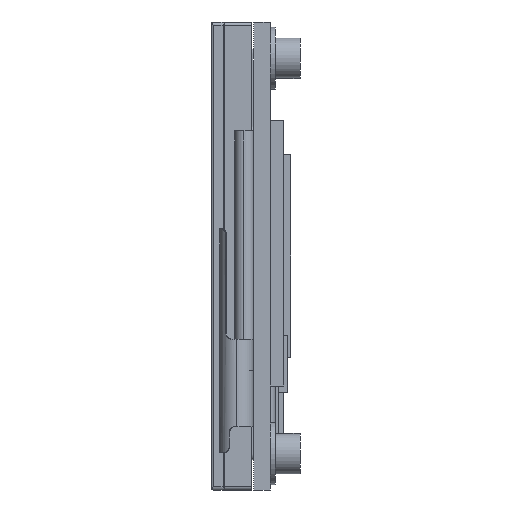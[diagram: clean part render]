
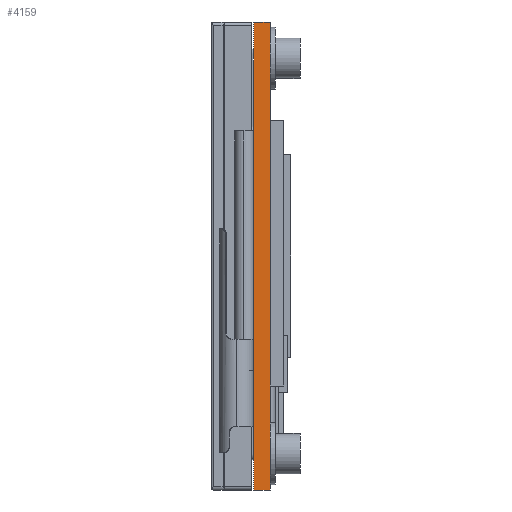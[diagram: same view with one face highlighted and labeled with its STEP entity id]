
A CAD part, left-side view. The second image highlights one B-rep face of the part: STEP entity #4159.
In plain terms, the highlighted planar face has unit normal (-1, 0, 0).
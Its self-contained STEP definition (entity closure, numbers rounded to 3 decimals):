
#29 = VERTEX_POINT ( 'NONE', #3302 ) ;
#35 = ORIENTED_EDGE ( 'NONE', *, *, #2148, .T. ) ;
#132 = DIRECTION ( 'NONE',  ( 0., 0., 1. ) ) ;
#348 = LINE ( 'NONE', #998, #4020 ) ;
#527 = VECTOR ( 'NONE', #132, 1000. ) ;
#644 = DIRECTION ( 'NONE',  ( 1., 0., 0. ) ) ;
#998 = CARTESIAN_POINT ( 'NONE',  ( -38.5, 1.56, -22.5 ) ) ;
#1241 = ORIENTED_EDGE ( 'NONE', *, *, #2920, .F. ) ;
#1447 = ORIENTED_EDGE ( 'NONE', *, *, #1830, .F. ) ;
#1472 = DIRECTION ( 'NONE',  ( 0., -1., 0. ) ) ;
#1723 = DIRECTION ( 'NONE',  ( 0., -1., 0. ) ) ;
#1830 = EDGE_CURVE ( 'NONE', #4351, #2425, #6119, .T. ) ;
#2017 = CARTESIAN_POINT ( 'NONE',  ( -38.5, 1.56, 22.5 ) ) ;
#2025 = ORIENTED_EDGE ( 'NONE', *, *, #5833, .T. ) ;
#2111 = CARTESIAN_POINT ( 'NONE',  ( -38.5, 1.56, 22.5 ) ) ;
#2148 = EDGE_CURVE ( 'NONE', #29, #3158, #348, .T. ) ;
#2162 = CARTESIAN_POINT ( 'NONE',  ( -38.5, 0., -22.5 ) ) ;
#2425 = VERTEX_POINT ( 'NONE', #5925 ) ;
#2522 = PLANE ( 'NONE',  #4010 ) ;
#2920 = EDGE_CURVE ( 'NONE', #29, #4351, #6144, .T. ) ;
#3158 = VERTEX_POINT ( 'NONE', #2162 ) ;
#3302 = CARTESIAN_POINT ( 'NONE',  ( -38.5, 1.56, -22.5 ) ) ;
#3565 = VECTOR ( 'NONE', #1723, 1000. ) ;
#4010 = AXIS2_PLACEMENT_3D ( 'NONE', #4905, #644, #5359 ) ;
#4020 = VECTOR ( 'NONE', #1472, 1000. ) ;
#4159 = ADVANCED_FACE ( 'NONE', ( #4935 ), #2522, .F. ) ;
#4160 = CARTESIAN_POINT ( 'NONE',  ( -38.5, 1.56, 22.5 ) ) ;
#4351 = VERTEX_POINT ( 'NONE', #2111 ) ;
#4711 = EDGE_LOOP ( 'NONE', ( #2025, #1447, #1241, #35 ) ) ;
#4905 = CARTESIAN_POINT ( 'NONE',  ( -38.5, 1.56, 22.5 ) ) ;
#4935 = FACE_OUTER_BOUND ( 'NONE', #4711, .T. ) ;
#5028 = LINE ( 'NONE', #5905, #5987 ) ;
#5359 = DIRECTION ( 'NONE',  ( 0., 0., -1. ) ) ;
#5833 = EDGE_CURVE ( 'NONE', #3158, #2425, #5028, .T. ) ;
#5867 = DIRECTION ( 'NONE',  ( 0., 0., 1. ) ) ;
#5905 = CARTESIAN_POINT ( 'NONE',  ( -38.5, 0., 22.5 ) ) ;
#5925 = CARTESIAN_POINT ( 'NONE',  ( -38.5, 0., 22.5 ) ) ;
#5987 = VECTOR ( 'NONE', #5867, 1000. ) ;
#6119 = LINE ( 'NONE', #4160, #3565 ) ;
#6144 = LINE ( 'NONE', #2017, #527 ) ;
